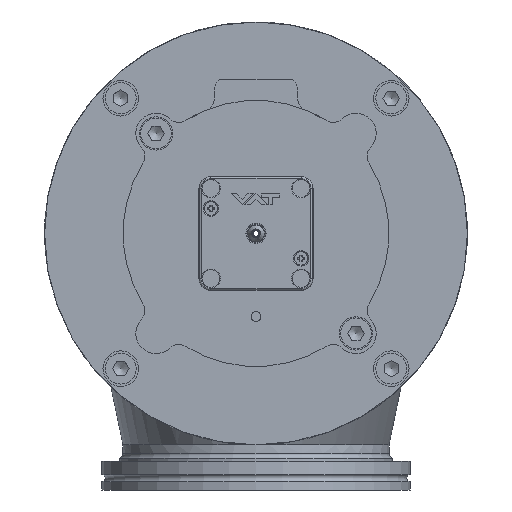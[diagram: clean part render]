
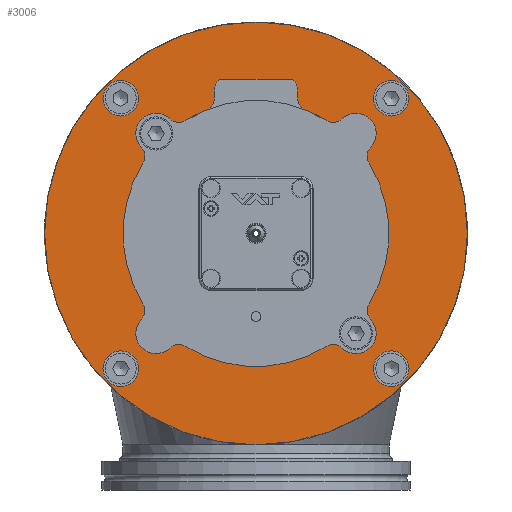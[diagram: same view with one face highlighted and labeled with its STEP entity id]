
A CAD part, left-side view. The second image highlights one B-rep face of the part: STEP entity #3006.
In plain terms, the highlighted planar face has unit normal (-1, 0, 0).
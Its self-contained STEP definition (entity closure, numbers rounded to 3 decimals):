
#3006=ADVANCED_FACE('BCT_REF_77270',(#4471,#4472,#4473,#4474,#4475,#4476,
#4477,#4478),#3420,.F.);
#3420=PLANE('',#12446);
#3890=CIRCLE('',#12387,89.);
#3922=CIRCLE('',#12439,3.4);
#3923=CIRCLE('',#12440,3.4);
#3924=CIRCLE('',#12441,7.5);
#3925=CIRCLE('',#12442,7.5);
#3926=CIRCLE('',#12443,7.5);
#3927=CIRCLE('',#12444,7.5);
#3928=CIRCLE('',#12445,55.145);
#4471=FACE_BOUND('',#5138,.T.);
#4472=FACE_BOUND('',#5139,.T.);
#4473=FACE_BOUND('',#5140,.T.);
#4474=FACE_BOUND('',#5141,.T.);
#4475=FACE_BOUND('',#5142,.T.);
#4476=FACE_BOUND('',#5143,.T.);
#4477=FACE_BOUND('',#5144,.T.);
#4478=FACE_BOUND('',#5145,.T.);
#5138=EDGE_LOOP('',(#6795));
#5139=EDGE_LOOP('',(#6796));
#5140=EDGE_LOOP('',(#6797));
#5141=EDGE_LOOP('',(#6798));
#5142=EDGE_LOOP('',(#6799));
#5143=EDGE_LOOP('',(#6800));
#5144=EDGE_LOOP('',(#6801));
#5145=EDGE_LOOP('',(#6802));
#6795=ORIENTED_EDGE('',*,*,#9828,.T.);
#6796=ORIENTED_EDGE('',*,*,#9829,.T.);
#6797=ORIENTED_EDGE('',*,*,#9830,.T.);
#6798=ORIENTED_EDGE('',*,*,#9831,.T.);
#6799=ORIENTED_EDGE('',*,*,#9832,.T.);
#6800=ORIENTED_EDGE('',*,*,#9833,.T.);
#6801=ORIENTED_EDGE('',*,*,#9834,.T.);
#6802=ORIENTED_EDGE('',*,*,#9794,.T.);
#8665=VERTEX_POINT('',#19529);
#8699=VERTEX_POINT('',#19731);
#8700=VERTEX_POINT('',#19733);
#8701=VERTEX_POINT('',#19735);
#8702=VERTEX_POINT('',#19737);
#8703=VERTEX_POINT('',#19739);
#8704=VERTEX_POINT('',#19741);
#8705=VERTEX_POINT('',#19743);
#9794=EDGE_CURVE('',#8665,#8665,#3890,.T.);
#9828=EDGE_CURVE('',#8699,#8699,#3922,.T.);
#9829=EDGE_CURVE('BCT_REF_77872',#8700,#8700,#3923,.T.);
#9830=EDGE_CURVE('BCT_REF_108915',#8701,#8701,#3924,.T.);
#9831=EDGE_CURVE('',#8702,#8702,#3925,.T.);
#9832=EDGE_CURVE('',#8703,#8703,#3926,.T.);
#9833=EDGE_CURVE('',#8704,#8704,#3927,.T.);
#9834=EDGE_CURVE('BCT_REF_78328',#8705,#8705,#3928,.T.);
#12387=AXIS2_PLACEMENT_3D('',#19528,#14288,#14289);
#12439=AXIS2_PLACEMENT_3D('',#19730,#14392,#14393);
#12440=AXIS2_PLACEMENT_3D('',#19732,#14394,#14395);
#12441=AXIS2_PLACEMENT_3D('',#19734,#14396,#14397);
#12442=AXIS2_PLACEMENT_3D('',#19736,#14398,#14399);
#12443=AXIS2_PLACEMENT_3D('',#19738,#14400,#14401);
#12444=AXIS2_PLACEMENT_3D('',#19740,#14402,#14403);
#12445=AXIS2_PLACEMENT_3D('',#19742,#14404,#14405);
#12446=AXIS2_PLACEMENT_3D('',#19744,#14406,#14407);
#14288=DIRECTION('',(-1.,0.,0.));
#14289=DIRECTION('',(0.,0.,1.));
#14392=DIRECTION('',(1.,0.,0.));
#14393=DIRECTION('',(0.,0.,1.));
#14394=DIRECTION('',(1.,0.,0.));
#14395=DIRECTION('',(0.,0.,-1.));
#14396=DIRECTION('',(1.,0.,0.));
#14397=DIRECTION('',(0.,-1.,0.));
#14398=DIRECTION('',(1.,0.,0.));
#14399=DIRECTION('',(0.,0.,1.));
#14400=DIRECTION('',(1.,0.,0.));
#14401=DIRECTION('',(0.,1.,0.));
#14402=DIRECTION('',(1.,0.,0.));
#14403=DIRECTION('',(0.,0.,-1.));
#14404=DIRECTION('',(1.,0.,0.));
#14405=DIRECTION('',(0.,0.,-1.));
#14406=DIRECTION('',(1.,0.,0.));
#14407=DIRECTION('',(0.,0.,-1.));
#19528=CARTESIAN_POINT('',(0.,0.,0.));
#19529=CARTESIAN_POINT('',(0.,0.,89.));
#19730=CARTESIAN_POINT('',(0.,-42.073,42.073));
#19731=CARTESIAN_POINT('',(0.,-42.073,45.473));
#19732=CARTESIAN_POINT('',(0.,42.073,-42.073));
#19733=CARTESIAN_POINT('',(0.,42.073,-45.473));
#19734=CARTESIAN_POINT('',(0.,56.922,-56.922));
#19735=CARTESIAN_POINT('',(0.,49.422,-56.922));
#19736=CARTESIAN_POINT('',(0.,-56.922,-56.922));
#19737=CARTESIAN_POINT('',(0.,-56.922,-49.422));
#19738=CARTESIAN_POINT('',(0.,-56.922,56.922));
#19739=CARTESIAN_POINT('',(0.,-49.422,56.922));
#19740=CARTESIAN_POINT('',(0.,56.922,56.922));
#19741=CARTESIAN_POINT('',(0.,56.922,49.422));
#19742=CARTESIAN_POINT('',(0.,0.,0.));
#19743=CARTESIAN_POINT('',(0.,0.,-55.145));
#19744=CARTESIAN_POINT('',(0.,89.,0.));
